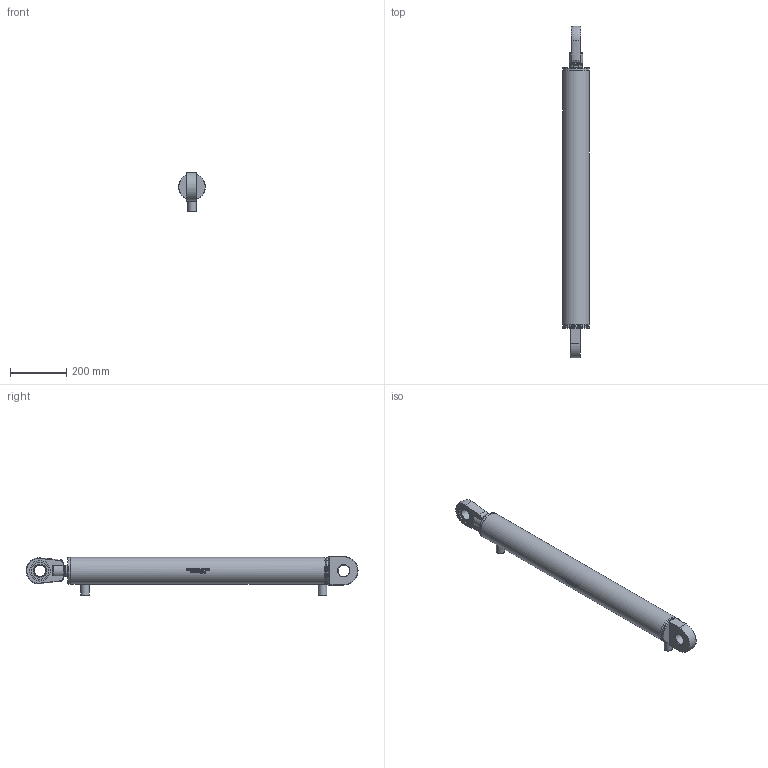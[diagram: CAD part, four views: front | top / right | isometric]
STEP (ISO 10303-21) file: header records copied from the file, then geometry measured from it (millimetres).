
FILE_DESCRIPTION(/* description */ (''),/* implementation_level */ '2;1');
FILE_NAME(/* name */ 'HC_A_80_45_800_AMB_WEB.step',/* time_stamp */ '2023-07-25T14:36:42+03:00',/* author */ (''),/* organization */ (''),/* preprocessor_version */ 'ST-DEVELOPER v20',/* originating_system */ 'Autodesk Translation Framework v12.9.0.99',/* authorisation */ '');
FILE_SCHEMA (('AUTOMOTIVE_DESIGN { 1 0 10303 214 3 1 1 }'));
Length unit declared in the file: millimetre
Products named in the file (16): HC_A_80_45_50_ÖAMB_WEB; Manşon_1_2; RMK_40_101; TAK_80_95; Bileşen1; RMV_40; dgihl_40_do; 45_K_MIL_WEB; Bileşen1_1; HCA_A_80_95_BORU; 80_100_Boru; TDK_80_45; TDK_80_45_1; K06-45X55_6X5_3X7; K22-045_55_10; KO-77X3
Assembly tree (16 placements, depth 3):
  HC_A_80_45_50_ÖAMB_WEB
    Manşon_1_2  x2
    RMK_40_101
    TAK_80_95
      Bileşen1
    RMV_40
      dgihl_40_do
    45_K_MIL_WEB
      Bileşen1_1
    HCA_A_80_95_BORU
      80_100_Boru
    TDK_80_45
      TDK_80_45_1
      K06-45X55_6X5_3X7
      K22-045_55_10
      KO-77X3
Bounding box: 95 x 1178.16 x 138 mm (x, y, z)
Volume: 3037209.4 mm3; surface area: 690100.2 mm2
Topology: 11 solids, 11 shells, 765 faces, 1978 edges, 1298 vertices
Faces by surface type: bspline 373, plane 244, cylinder 77, cone 49, torus 13, sphere 9
Full cylindrical faces by diameter (mm): 8.526 x1, 10 x2, 19 x2, 30 x2, 32.822 x1, 33.376 x1, 34.85 x1, 40 x2, 45 x3, 45.571 x1, 46.6 x1, 47.6 x1, 49 x1, 54.429 x1, 55 x2, 55.6 x1, 62 x2, 73 x2, 77 x1, 80 x2, 81 x3, 83 x1, 83.022 x1, 84.822 x1, 87 x1, 95 x3
Entity records: 35473 total; most frequent: CARTESIAN_POINT 18862, ORIENTED_EDGE 3920, DIRECTION 2308, EDGE_CURVE 1960, VERTEX_POINT 1288, LINE 884, VECTOR 884, EDGE_LOOP 846
